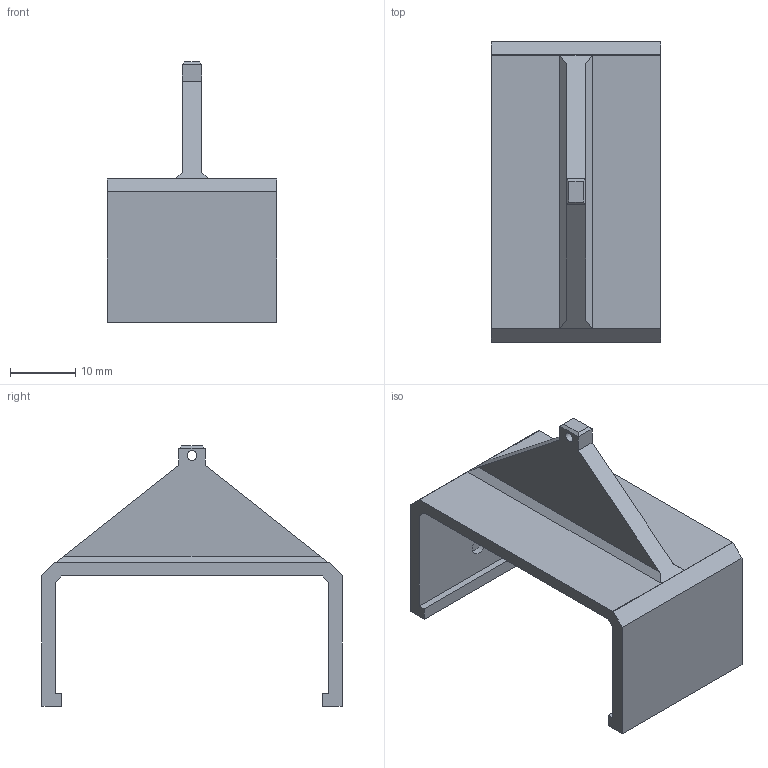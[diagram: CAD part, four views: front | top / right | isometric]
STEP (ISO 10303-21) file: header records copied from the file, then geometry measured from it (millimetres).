
FILE_DESCRIPTION(/* description */ (''),/* implementation_level */ '2;1');
FILE_NAME(/* name */ 'D:/pobrane/pwr/sem 6/konkurs kompozytywni/step/element chwytający.step',/* time_stamp */ '2021-05-10T22:29:15+02:00',/* author */ (''),/* organization */ (''),/* preprocessor_version */ 'ST-DEVELOPER v18.1',/* originating_system */ 'Autodesk Translation Framework v10.6.0.1341',/* authorisation */ '');
FILE_SCHEMA (('AUTOMOTIVE_DESIGN { 1 0 10303 214 3 1 1 }'));
Length unit declared in the file: millimetre
Products named in the file (1): element chwytający
Bounding box: 26 x 46.12 x 40 mm (x, y, z)
Volume: 5659.1 mm3; surface area: 5688.8 mm2
Topology: 1 solids, 1 shells, 39 faces, 97 edges, 62 vertices
Faces by surface type: plane 36, cylinder 3
Full cylindrical faces by diameter (mm): 1.5 x1, 3 x2
Entity records: 1177 total; most frequent: CARTESIAN_POINT 199, ORIENTED_EDGE 194, DIRECTION 183, EDGE_CURVE 97, LINE 91, VECTOR 91, VERTEX_POINT 62, AXIS2_PLACEMENT_3D 46
